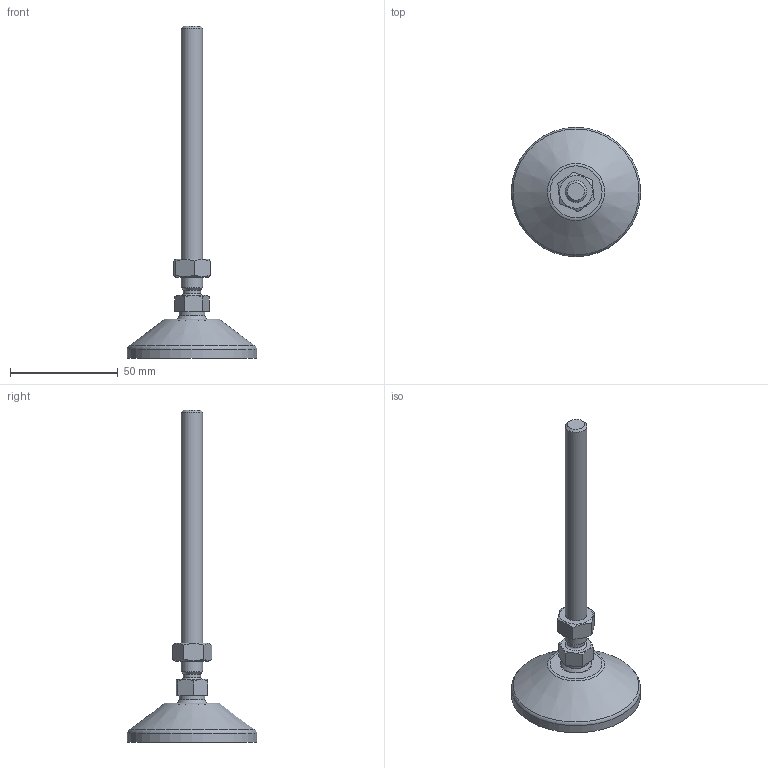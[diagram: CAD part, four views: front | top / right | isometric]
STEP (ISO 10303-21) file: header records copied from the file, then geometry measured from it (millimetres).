
FILE_DESCRIPTION(('STEP AP203'), '1');
FILE_NAME('栖闉罻', '', ('UNSPECIFIED'), ('UNSPECIFIED'), 'C3D Converter', 'C3D Toolkit', '');
FILE_SCHEMA(('CONFIG_CONTROL_DESIGN'));
Length unit declared in the file: millimetre
Products named in the file (4): A00020.110125; A00015.1060
Assembly tree (3 placements, depth 3):
  (unnamed)
    A00020.110125
      (unnamed)
    A00015.1060
Bounding box: 60 x 60 x 154 mm (x, y, z)
Volume: 33948.2 mm3; surface area: 15932.5 mm2
Topology: 3 solids, 3 shells, 158 faces, 415 edges, 275 vertices
Faces by surface type: plane 86, cylinder 34, torus 21, cone 15, sphere 2
Full cylindrical faces by diameter (mm): 4 x8, 8 x1, 8.376 x1, 10 x1, 12 x1, 14.3 x1, 15 x2, 15.5 x1, 50.5 x1, 60 x1
Entity records: 8241 total; most frequent: CARTESIAN_POINT 2996, DIRECTION 790, ORIENTED_EDGE 760, EDGE_CURVE 380, AXIS2_PLACEMENT_3D 322, VERTEX_POINT 274, EDGE_LOOP 206, FACE_BOUND 166
